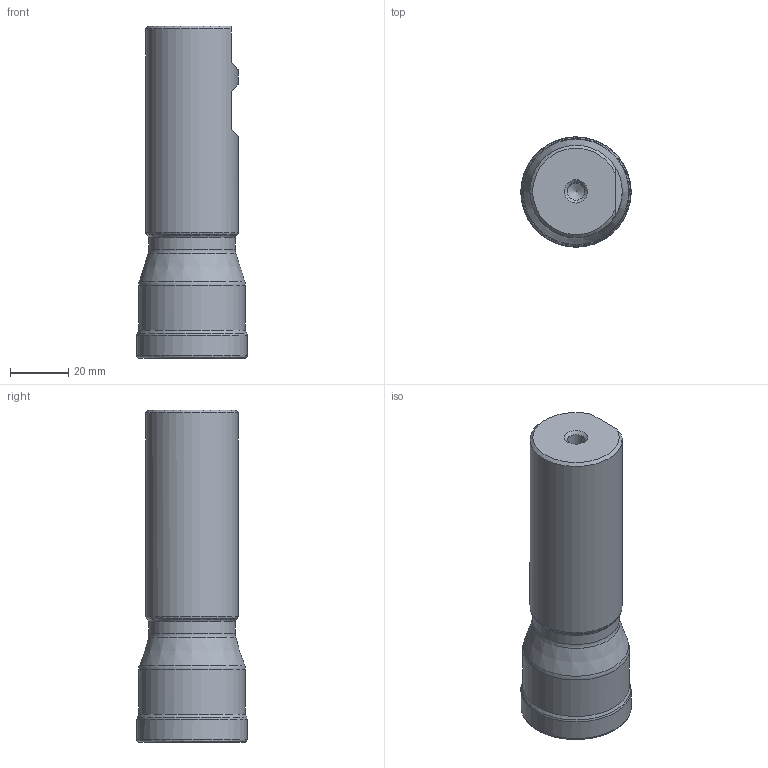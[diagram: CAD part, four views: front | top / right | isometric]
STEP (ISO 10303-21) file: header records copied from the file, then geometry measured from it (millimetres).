
FILE_DESCRIPTION(/* description */ (''),/* implementation_level */ '2;1');
FILE_NAME(/* name */ 'fmp12-1.50''''-xp1.25''''-wn08-03c.stp',/* time_stamp */ '2022-03-23T10:07:28+08:00',/* author */ (''),/* organization */ (''),/* preprocessor_version */ 'ST-DEVELOPER v16.7',/* originating_system */ 'SIEMENS PLM Software NX 12.0',/* authorisation */ '');
FILE_SCHEMA (('AUTOMOTIVE_DESIGN { 1 0 10303 214 3 1 1 1 }'));
Length unit declared in the file: millimetre
Products named in the file (1): heyu2B0065D06bsp
Bounding box: 38 x 38 x 114.3 mm (x, y, z)
Volume: 93811.4 mm3; surface area: 15539 mm2
Topology: 1 solids, 1 shells, 31 faces, 79 edges, 51 vertices
Faces by surface type: revolution 10, plane 7, cone 6, cylinder 4, torus 4
Full cylindrical faces by diameter (mm): 6 x1, 29.75 x1, 31.75 x1, 36.704 x1
Entity records: 884 total; most frequent: CARTESIAN_POINT 272, DIRECTION 121, ORIENTED_EDGE 76, EDGE_LOOP 55, AXIS2_PLACEMENT_3D 51, FACE_BOUND 49, EDGE_CURVE 38, VERTEX_POINT 34
